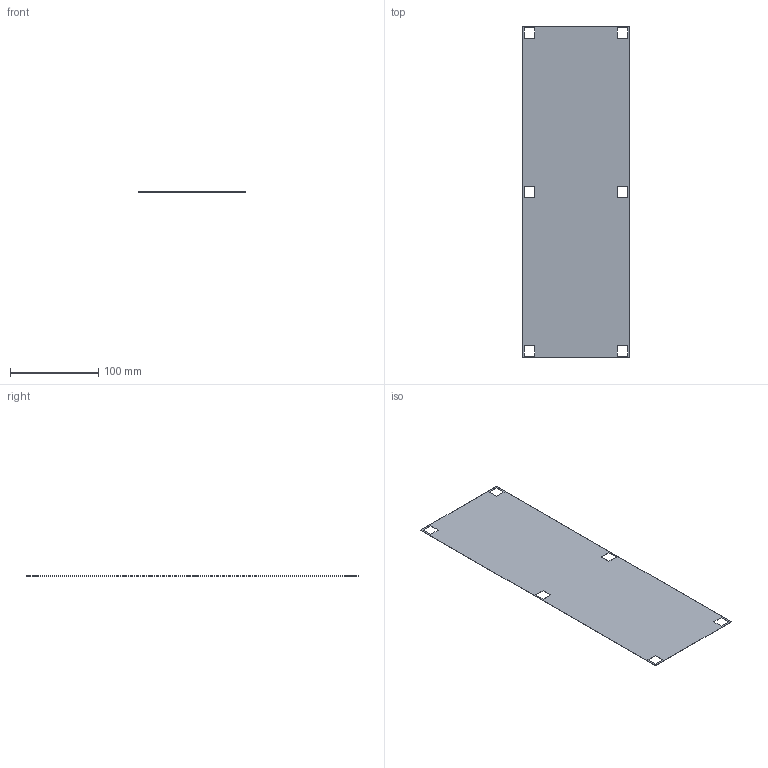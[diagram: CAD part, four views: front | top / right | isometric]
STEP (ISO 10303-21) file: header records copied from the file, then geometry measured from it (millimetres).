
FILE_DESCRIPTION(/* description */ ('','CAx-IF Rec.Pracs.---Representation and Presentation of Product Manufacturing Information (PMI)---4.0---2014-10-13'),/* implementation_level */ '2;1');
FILE_NAME(/* name */ 'G:\Alle CAD Daten\CAMTEC_2021_Pack and Go\PSU CPS-i3000 - CPS-i2000\2061084001.stp',/* time_stamp */ '2020-09-15T17:47:40+02:00',/* author */ ('rryba'),/* organization */ (''),/* preprocessor_version */ 'ST-DEVELOPER v18.1',/* originating_system */ 'Autodesk Inventor 2021',/* authorisation */ '');
FILE_SCHEMA (('AP242_MANAGED_MODEL_BASED_3D_ENGINEERING_MIM_LF { 1 0 10303 442 1 1 4 }'));
Length unit declared in the file: millimetre
Products named in the file (1): 2061084001
Bounding box: 121.4 x 376 x 0.3 mm (x, y, z)
Volume: 13434.7 mm3; surface area: 89949.6 mm2
Topology: 1 solids, 1 shells, 30 faces, 112 edges, 112 vertices
Faces by surface type: plane 30
Entity records: 1138 total; most frequent: CARTESIAN_POINT 227, ORIENTED_EDGE 168, DIRECTION 146, LINE 84, VECTOR 84, EDGE_CURVE 84, VERTEX_POINT 56, EDGE_LOOP 42
